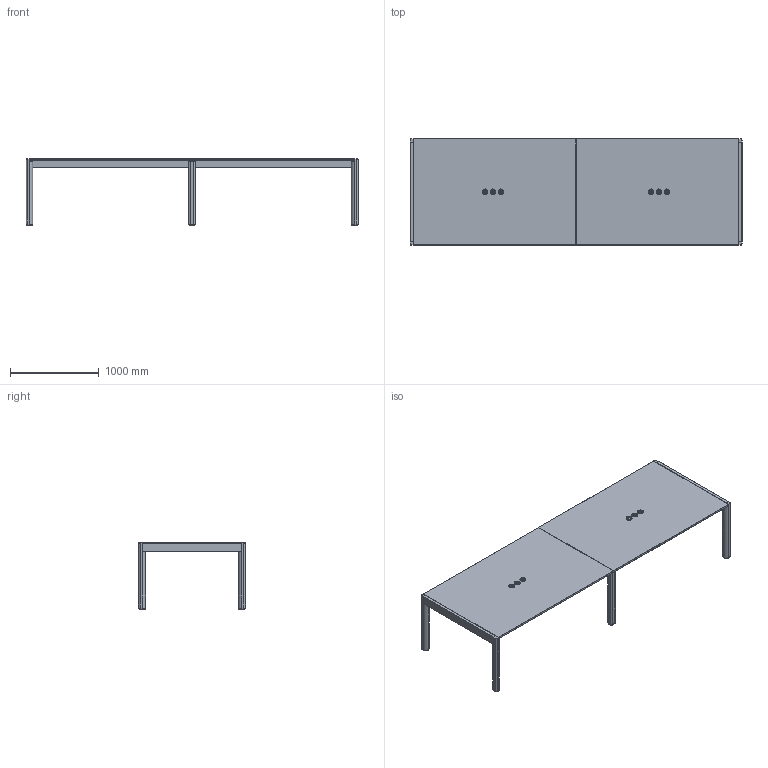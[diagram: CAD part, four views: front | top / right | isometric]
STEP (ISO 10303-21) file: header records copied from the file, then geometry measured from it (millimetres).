
FILE_DESCRIPTION( ('This file contains a STEP AP42 implementation' ,'as created by ZW3D STEP Interface translator.') ,'2;1' );
FILE_NAME( 'Rive - Table de réunion XXL - 375x120x75.stp' ,'24 913. 84236', (''), ('ZWCAD Software Co.'), 'Version 1.0', 'ZW3D to STEP translator', '' );
FILE_SCHEMA(('AUTOMOTIVE_DESIGN { 1 0 10303 214 1 1 1 1 }'));
Length unit declared in the file: millimetre
Products named in the file (4): 0; RIVE - TABLE DE REUNION XXL; Triple Disq60 Legrand; prise élcetrique encastré LEGRANG
Assembly tree (5 placements, depth 3):
  0
  RIVE - TABLE DE REUNION XXL
    Triple Disq60 Legrand  x2
      prise élcetrique encastré LEGRANG
Bounding box: 3750 x 1200 x 754 mm (x, y, z)
Volume: 154516711.7 mm3; surface area: 21760969.5 mm2
Topology: 22 solids, 22 shells, 379 faces, 759 edges, 460 vertices
Faces by surface type: plane 255, cylinder 86, torus 16, sphere 14, cone 8
Full cylindrical faces by diameter (mm): 4 x6, 5 x18, 38 x6, 39 x6, 55 x6, 67 x6
Entity records: 8276 total; most frequent: DIRECTION 1359, CARTESIAN_POINT 1336, ORIENTED_EDGE 1256, EDGE_CURVE 628, VECTOR 491, LINE 491, AXIS2_PLACEMENT_3D 434, VERTEX_POINT 375
